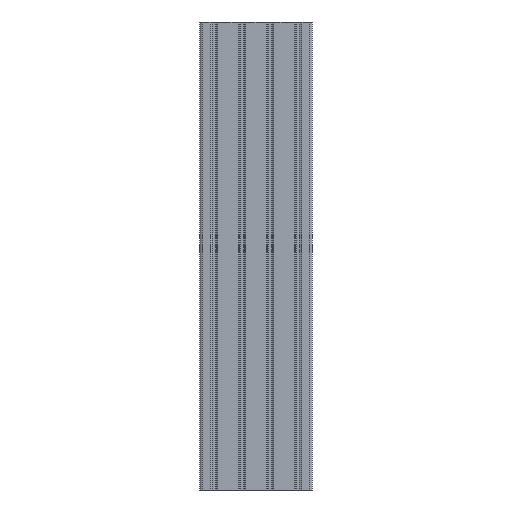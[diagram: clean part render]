
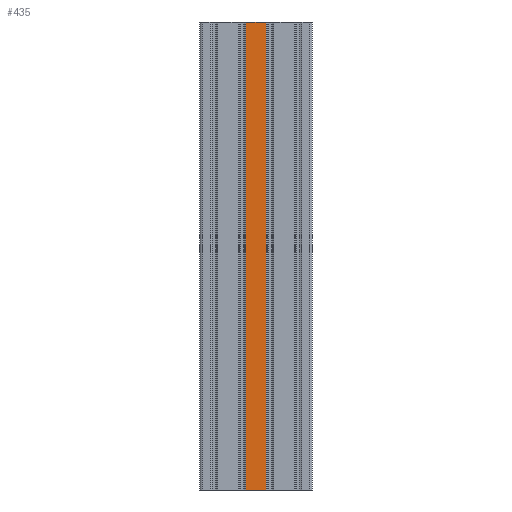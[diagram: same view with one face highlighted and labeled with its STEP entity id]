
A CAD part, front view. The second image highlights one B-rep face of the part: STEP entity #435.
In plain terms, the highlighted planar face has unit normal (0, -1, 0).
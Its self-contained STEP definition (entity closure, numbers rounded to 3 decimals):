
#406 = FACE_OUTER_BOUND ( 'NONE', #7483, .T. ) ;
#435 = ADVANCED_FACE ( 'NONE', ( #406 ), #1498, .T. ) ;
#532 = VERTEX_POINT ( 'NONE', #3210 ) ;
#616 = VERTEX_POINT ( 'NONE', #2449 ) ;
#658 = DIRECTION ( 'NONE',  ( 1., 0., 0. ) ) ;
#769 = EDGE_CURVE ( 'NONE', #7607, #532, #3604, .T. ) ;
#953 = AXIS2_PLACEMENT_3D ( 'NONE', #2711, #5606, #6194 ) ;
#1049 = ORIENTED_EDGE ( 'NONE', *, *, #5495, .F. ) ;
#1061 = CARTESIAN_POINT ( 'NONE',  ( 10.9, -15., -250. ) ) ;
#1256 = VECTOR ( 'NONE', #3776, 1000. ) ;
#1498 = PLANE ( 'NONE',  #953 ) ;
#1501 = LINE ( 'NONE', #3867, #2494 ) ;
#1553 = EDGE_CURVE ( 'NONE', #1965, #616, #1742, .T. ) ;
#1742 = LINE ( 'NONE', #3009, #3218 ) ;
#1965 = VERTEX_POINT ( 'NONE', #5424 ) ;
#2449 = CARTESIAN_POINT ( 'NONE',  ( 10.9, -15., 250. ) ) ;
#2494 = VECTOR ( 'NONE', #4472, 1000. ) ;
#2711 = CARTESIAN_POINT ( 'NONE',  ( -60., -15., -373.693 ) ) ;
#2720 = EDGE_CURVE ( 'NONE', #7607, #616, #1501, .T. ) ;
#2739 = LINE ( 'NONE', #3728, #1256 ) ;
#3009 = CARTESIAN_POINT ( 'NONE',  ( -60., -15., 250. ) ) ;
#3115 = DIRECTION ( 'NONE',  ( -1., 0., 0. ) ) ;
#3210 = CARTESIAN_POINT ( 'NONE',  ( -10.9, -15., -250. ) ) ;
#3218 = VECTOR ( 'NONE', #658, 1000. ) ;
#3509 = ORIENTED_EDGE ( 'NONE', *, *, #769, .F. ) ;
#3604 = LINE ( 'NONE', #6633, #6360 ) ;
#3728 = CARTESIAN_POINT ( 'NONE',  ( -10.9, -15., -250. ) ) ;
#3758 = ORIENTED_EDGE ( 'NONE', *, *, #1553, .F. ) ;
#3776 = DIRECTION ( 'NONE',  ( 0., 0., 1. ) ) ;
#3867 = CARTESIAN_POINT ( 'NONE',  ( 10.9, -15., -250. ) ) ;
#4472 = DIRECTION ( 'NONE',  ( 0., 0., 1. ) ) ;
#5424 = CARTESIAN_POINT ( 'NONE',  ( -10.9, -15., 250. ) ) ;
#5495 = EDGE_CURVE ( 'NONE', #532, #1965, #2739, .T. ) ;
#5606 = DIRECTION ( 'NONE',  ( 0., -1., 0. ) ) ;
#6194 = DIRECTION ( 'NONE',  ( 1., 0., 0. ) ) ;
#6360 = VECTOR ( 'NONE', #3115, 1000. ) ;
#6633 = CARTESIAN_POINT ( 'NONE',  ( -60., -15., -250. ) ) ;
#6765 = ORIENTED_EDGE ( 'NONE', *, *, #2720, .T. ) ;
#7483 = EDGE_LOOP ( 'NONE', ( #3509, #6765, #3758, #1049 ) ) ;
#7607 = VERTEX_POINT ( 'NONE', #1061 ) ;
